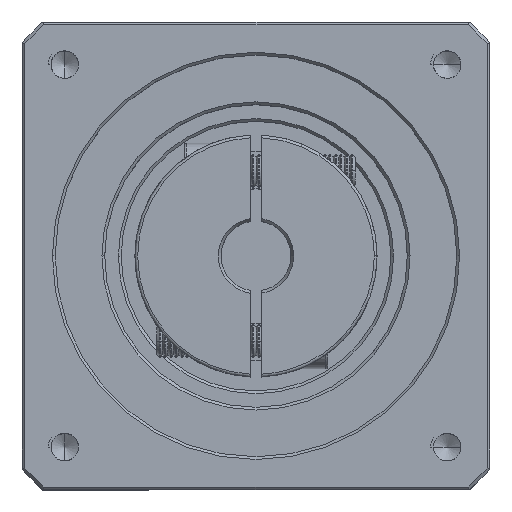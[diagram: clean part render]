
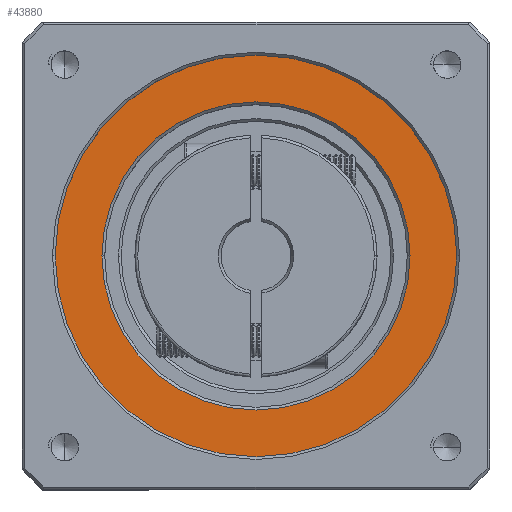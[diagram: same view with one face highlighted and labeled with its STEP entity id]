
A CAD part, top view. The second image highlights one B-rep face of the part: STEP entity #43880.
In plain terms, the highlighted planar face has unit normal (0, 0, 1).
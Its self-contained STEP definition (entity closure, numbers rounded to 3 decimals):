
#5969 = CARTESIAN_POINT ( 'NONE',  ( 14.992, 11.253, 99.75 ) ) ;
#6291 = DIRECTION ( 'NONE',  ( 0., 0., -1. ) ) ;
#6313 = EDGE_CURVE ( 'NONE', #81143, #70208, #100510, .T. ) ;
#14472 = DIRECTION ( 'NONE',  ( 0., 0., 1. ) ) ;
#15035 = ORIENTED_EDGE ( 'NONE', *, *, #120715, .T. ) ;
#27725 = AXIS2_PLACEMENT_3D ( 'NONE', #53317, #118826, #62786 ) ;
#29260 = ORIENTED_EDGE ( 'NONE', *, *, #75925, .T. ) ;
#34111 = PLANE ( 'NONE',  #27725 ) ;
#38566 = AXIS2_PLACEMENT_3D ( 'NONE', #51635, #117148, #61139 ) ;
#38904 = EDGE_LOOP ( 'NONE', ( #89713, #15035 ) ) ;
#43880 = ADVANCED_FACE ( 'NONE', ( #45591, #120285 ), #34111, .T. ) ;
#45591 = FACE_OUTER_BOUND ( 'NONE', #47810, .T. ) ;
#46904 = CARTESIAN_POINT ( 'NONE',  ( 79.492, 11.253, 99.75 ) ) ;
#47810 = EDGE_LOOP ( 'NONE', ( #29260, #70553 ) ) ;
#51635 = CARTESIAN_POINT ( 'NONE',  ( 42.992, 11.253, 99.75 ) ) ;
#53317 = CARTESIAN_POINT ( 'NONE',  ( 42.992, 11.253, 99.75 ) ) ;
#54198 = CARTESIAN_POINT ( 'NONE',  ( 42.992, 11.253, 99.75 ) ) ;
#54782 = VERTEX_POINT ( 'NONE', #5969 ) ;
#55266 = CIRCLE ( 'NONE', #38566, 36.5 ) ;
#60855 = CIRCLE ( 'NONE', #96990, 28. ) ;
#61139 = DIRECTION ( 'NONE',  ( 1., 0., 0. ) ) ;
#61364 = EDGE_CURVE ( 'NONE', #90408, #54782, #60855, .T. ) ;
#62480 = CARTESIAN_POINT ( 'NONE',  ( 42.992, 11.253, 99.75 ) ) ;
#62786 = DIRECTION ( 'NONE',  ( 1., 0., 0. ) ) ;
#63637 = DIRECTION ( 'NONE',  ( 1., 0., 0. ) ) ;
#64740 = CARTESIAN_POINT ( 'NONE',  ( 6.492, 11.253, 99.75 ) ) ;
#65346 = AXIS2_PLACEMENT_3D ( 'NONE', #70709, #14472, #80151 ) ;
#70208 = VERTEX_POINT ( 'NONE', #46904 ) ;
#70553 = ORIENTED_EDGE ( 'NONE', *, *, #6313, .T. ) ;
#70709 = CARTESIAN_POINT ( 'NONE',  ( 42.992, 11.253, 99.75 ) ) ;
#71953 = DIRECTION ( 'NONE',  ( 1., 0., 0. ) ) ;
#75925 = EDGE_CURVE ( 'NONE', #70208, #81143, #55266, .T. ) ;
#80151 = DIRECTION ( 'NONE',  ( 1., 0., 0. ) ) ;
#81102 = AXIS2_PLACEMENT_3D ( 'NONE', #62480, #6291, #71953 ) ;
#81143 = VERTEX_POINT ( 'NONE', #64740 ) ;
#89713 = ORIENTED_EDGE ( 'NONE', *, *, #61364, .T. ) ;
#90408 = VERTEX_POINT ( 'NONE', #108104 ) ;
#96990 = AXIS2_PLACEMENT_3D ( 'NONE', #54198, #119665, #63637 ) ;
#100510 = CIRCLE ( 'NONE', #65346, 36.5 ) ;
#108104 = CARTESIAN_POINT ( 'NONE',  ( 70.992, 11.253, 99.75 ) ) ;
#117148 = DIRECTION ( 'NONE',  ( 0., 0., 1. ) ) ;
#118457 = CIRCLE ( 'NONE', #81102, 28. ) ;
#118826 = DIRECTION ( 'NONE',  ( 0., 0., 1. ) ) ;
#119665 = DIRECTION ( 'NONE',  ( 0., 0., -1. ) ) ;
#120285 = FACE_BOUND ( 'NONE', #38904, .T. ) ;
#120715 = EDGE_CURVE ( 'NONE', #54782, #90408, #118457, .T. ) ;
